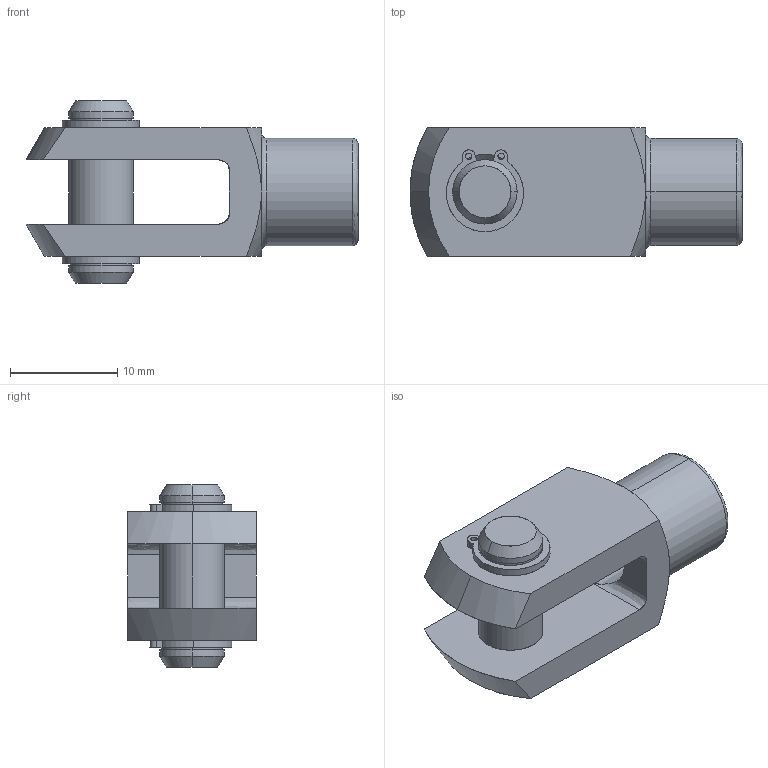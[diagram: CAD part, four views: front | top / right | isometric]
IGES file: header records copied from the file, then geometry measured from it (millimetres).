
Start section: SolidWorks IGES file using analytic representation for surfaces
Global section: file name: C:\Documents and Settings\IANO\My Documents\Wix and Auto CAD Work\CAD Models\Parametric Models\Wix Models\60000\65614_v2\65614_v2_IGES\65614.W0061.igs; native system: SolidWorks 2009; preprocessor: SolidWorks 2009; author: IANO; date: 140118.103827; units: millimetre
Bounding box: 31 x 12 x 17 mm (x, y, z)
Surface area: 2365.8 mm2 (no closed solid volume)
Topology: 0 solids, 0 shells, 95 faces, 1512 edges, 1512 vertices
Faces by surface type: revolution 63, bspline 32
